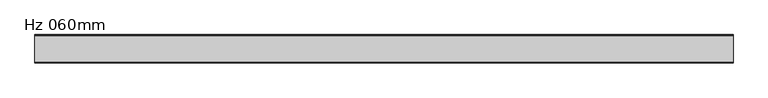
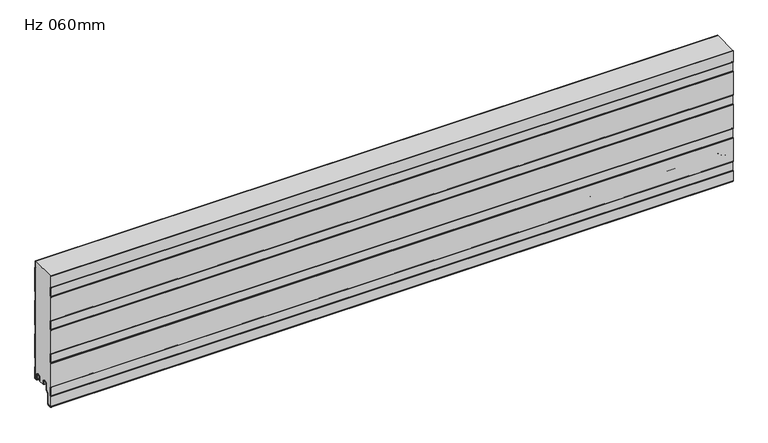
"""IFC4 building model written with IfcOpenShell, lengths in millimetres: plate geometry, KIP-MEX-KSS-1067-R19-CP-Hz-SL_SL : Hz 060mm."""

from ifc_helpers import new_model, si_unit, point, frame, frame_2d, origin, place, context, project, spatial, polyline, circle_curve, trimmed, segment, composite_curve, outline, extrude, source, transform, mapped, element, save
from ifc_brep_helpers import plane_surface, cylinder_surface, revolved_surface, advanced_brep


def hz_060mm_0e53f6a9(model_context):
    return source(origin(), model_context, "Body", "SolidModel", [
        advanced_brep(
        [(-740.0, -17.0015159, 2.0313088), (-740.0, -18.0015191, 1.0313116), (-740.0, -19.0015105, 2.0313088), (-740.0, -19.0015105, 6.0315125), (-740.0, -18.0015159, 6.0315125), (-740.0, -18.0015159, 8.7237223), (-740.0, -14.7015202, 12.023718), (-740.0, -10.301529, 12.023718), (-740.0, -7.0015335, 8.7237225), (-740.0, -7.0015335, -1.6962564), (-740.0, -5.2315393, -3.4662506), (-740.0, -0.9999916, -3.4662506), (-740.0, -0.9999916, 21.034026), (-740.0, -2.2002307, 22.4196686), (-740.0, -2.2002307, 41.7948349), (-740.0, -1.0, 43.1804679), (-740.0, -1.0, 97.2338833), (-740.0, -2.2002307, 98.6195162), (-740.0, -2.2002307, 117.9946825), (-740.0, -1.0, 119.3803155), (-740.0, -1.0, 173.4337309), (-740.0, -2.2002307, 174.8193638), (-740.0, -2.2002307, 194.1945301), (-740.0, -1.0, 195.5801631), (-740.0, -1.0, 249.6335785), (-740.0, -2.2002307, 251.0192114), (-740.0, -2.2002307, 266.0), (-740.0, -1.2002307, 266.0), (-740.0, -1.2002307, 251.3920919), (-740.0, -0.3417885, 250.4010442), (-740.0, 0.0, 249.4844273), (-740.0, 0.0, 195.7293142), (-740.0, -0.3417885, 194.8126973), (-740.0, -1.2002307, 193.8216497), (-740.0, -1.2002307, 175.1922443), (-740.0, -0.3417885, 174.2011966), (-740.0, 0.0, 173.2845797), (-740.0, 0.0, 119.5294666), (-740.0, -0.3417885, 118.6128497), (-740.0, -1.2002307, 117.6218021), (-740.0, -1.2002307, 98.9923967), (-740.0, -0.3417885, 98.001349), (-740.0, 0.0, 97.0847321), (-740.0, 0.0, 43.329619), (-740.0, -0.3417885, 42.4130021), (-740.0, -1.2002307, 41.4219545), (-740.0, -1.2002307, 22.7925491), (-740.0, -0.3417885, 21.8015014), (-740.0, 0.0, 20.8847931), (-740.0, 8.4e-06, -3.0662545), (-740.0, -1.3999878, -4.4662506), (-740.0, -5.2315393, -4.4662506), (-740.0, -8.0015335, -1.6962564), (-740.0, -8.0015335, 8.7237225), (-740.0, -10.301529, 11.023718), (-740.0, -14.7015202, 11.023718), (-740.0, -17.0015159, 8.7237223), (740.0, -17.0015159, 2.0313088), (740.0, -17.0015159, 8.7237223), (740.0, -14.7015202, 11.023718), (740.0, -10.301529, 11.023718), (740.0, -8.0015335, 8.7237225), (740.0, -8.0015335, -1.6962564), (740.0, -5.2315393, -4.4662506), (740.0, -1.3999878, -4.4662506), (740.0, 8.4e-06, -3.0662545), (740.0, 8.4e-06, 20.8848845), (740.0, -0.3417885, 21.8015014), (740.0, -1.2002307, 22.7925491), (740.0, -1.2002307, 41.4219545), (740.0, -0.3417885, 42.4130021), (740.0, 0.0, 43.329619), (740.0, 0.0, 97.0847321), (740.0, -0.3417885, 98.001349), (740.0, -1.2002307, 98.9923967), (740.0, -1.2002307, 117.6218021), (740.0, -0.3417885, 118.6128497), (740.0, 0.0, 119.5294666), (740.0, 0.0, 173.2845797), (740.0, -0.3417885, 174.2011966), (740.0, -1.2002307, 175.1922443), (740.0, -1.2002307, 193.8216497), (740.0, -0.3417885, 194.8126973), (740.0, 0.0, 195.7293142), (740.0, 0.0, 249.4844273), (740.0, -0.3417885, 250.4010442), (740.0, -1.2002307, 251.3920919), (740.0, -1.2002307, 266.0), (740.0, -2.2002307, 266.0), (740.0, -2.2002307, 251.0192114), (740.0, -1.0, 249.6335785), (740.0, -1.0, 195.5801631), (740.0, -2.2002307, 194.1945301), (740.0, -2.2002307, 174.8193638), (740.0, -1.0, 173.4337309), (740.0, -1.0, 119.3803155), (740.0, -2.2002307, 117.9946825), (740.0, -2.2002307, 98.6195162), (740.0, -1.0, 97.2338833), (740.0, -1.0, 43.1804679), (740.0, -2.2002307, 41.7948349), (740.0, -2.2002307, 22.4196686), (740.0, -0.9999916, 21.034026), (740.0, -0.9999916, -3.4662506), (740.0, -5.2315393, -3.4662506), (740.0, -7.0015335, -1.6962564), (740.0, -7.0015335, 8.7237225), (740.0, -10.301529, 12.023718), (740.0, -14.7015202, 12.023718), (740.0, -18.0015159, 8.7237223), (740.0, -18.0015159, 6.0315125), (740.0, -19.0015105, 6.0315125), (740.0, -19.0015105, 2.0313088), (740.0, -18.0015192, 1.0313116)],
        [
            (0, 1, circle_curve(frame((-740.0, -18.0015132, 2.0313088), z_axis=(-1.0, 0.0, 0.0), x_axis=(0.0, 0.0, 1.0)), 0.9999973)),
            (1, 2, circle_curve(frame((-740.0, -18.0015133, 2.0313088), z_axis=(-1.0, 0.0, 0.0), x_axis=(0.0, 0.0, 1.0)), 0.9999972)),
            (2, 3),
            (3, 4),
            (4, 5),
            (5, 6, circle_curve(frame((-740.0, -14.7015202, 8.7237223), z_axis=(-1.0, 0.0, 0.0), x_axis=(0.0, 0.0, 1.0)), 3.2999957)),
            (6, 7),
            (7, 8, circle_curve(frame((-740.0, -10.301529, 8.7237225), z_axis=(-1.0, 0.0, 0.0), x_axis=(0.0, 0.0, 1.0)), 3.2999955)),
            (8, 9),
            (9, 10, circle_curve(frame((-740.0, -5.2315393, -1.6962564), z_axis=(1.0, 0.0, 0.0), x_axis=(0.0, 0.0, 1.0)), 1.7699942)),
            (10, 11),
            (11, 12),
            (12, 13),
            (13, 14),
            (14, 15),
            (15, 16),
            (16, 17),
            (17, 18),
            (18, 19),
            (19, 20),
            (20, 21),
            (21, 22),
            (22, 23),
            (23, 24),
            (24, 25),
            (25, 26),
            (26, 27),
            (27, 28),
            (28, 29),
            (29, 30, circle_curve(frame((-740.0, -1.3999972, 249.4844273), z_axis=(-1.0, 0.0, 0.0), x_axis=(0.0, 0.0, 1.0)), 1.3999972)),
            (30, 31),
            (31, 32, circle_curve(frame((-740.0, -1.3999972, 195.7293142), z_axis=(-1.0, 0.0, 0.0), x_axis=(0.0, 0.0, 1.0)), 1.3999972)),
            (32, 33),
            (33, 34),
            (34, 35),
            (35, 36, circle_curve(frame((-740.0, -1.3999972, 173.2845797), z_axis=(-1.0, 0.0, 0.0), x_axis=(0.0, 0.0, 1.0)), 1.3999972)),
            (36, 37),
            (37, 38, circle_curve(frame((-740.0, -1.3999972, 119.5294666), z_axis=(-1.0, 0.0, 0.0), x_axis=(0.0, 0.0, 1.0)), 1.3999972)),
            (38, 39),
            (39, 40),
            (40, 41),
            (41, 42, circle_curve(frame((-740.0, -1.3999972, 97.0847321), z_axis=(-1.0, 0.0, 0.0), x_axis=(0.0, 0.0, 1.0)), 1.3999972)),
            (42, 43),
            (43, 44, circle_curve(frame((-740.0, -1.3999972, 43.329619), z_axis=(-1.0, 0.0, 0.0), x_axis=(0.0, 0.0, 1.0)), 1.3999972)),
            (44, 45),
            (45, 46),
            (46, 47),
            (47, 48, circle_curve(frame((-740.0, -1.3999972, 20.8848845), z_axis=(-1.0, 0.0, 0.0), x_axis=(0.0, 0.0, 1.0)), 1.3999972)),
            (48, 49),
            (49, 50, circle_curve(frame((-740.0, -1.3999878, -3.0662545), z_axis=(-1.0, 0.0, 0.0), x_axis=(0.0, 0.0, 1.0)), 1.3999962)),
            (50, 51),
            (51, 52, circle_curve(frame((-740.0, -5.2315393, -1.6962564), z_axis=(-1.0, 0.0, 0.0), x_axis=(0.0, 0.0, 1.0)), 2.7699942)),
            (52, 53),
            (53, 54, circle_curve(frame((-740.0, -10.301529, 8.7237225), z_axis=(1.0, 0.0, 0.0), x_axis=(0.0, 0.0, 1.0)), 2.2999955)),
            (54, 55),
            (55, 56, circle_curve(frame((-740.0, -14.7015202, 8.7237223), z_axis=(1.0, 0.0, 0.0), x_axis=(0.0, 0.0, 1.0)), 2.2999957)),
            (56, 0),
            (57, 58),
            (58, 59, circle_curve(frame((740.0, -14.7015202, 8.7237223), z_axis=(-1.0, 0.0, 0.0), x_axis=(0.0, 0.0, 1.0)), 2.2999957)),
            (59, 60),
            (60, 61, circle_curve(frame((740.0, -10.301529, 8.7237225), z_axis=(-1.0, 0.0, 0.0), x_axis=(0.0, 0.0, 1.0)), 2.2999955)),
            (61, 62),
            (62, 63, circle_curve(frame((740.0, -5.2315393, -1.6962564), z_axis=(1.0, 0.0, 0.0), x_axis=(0.0, 0.0, 1.0)), 2.7699942)),
            (63, 64),
            (64, 65, circle_curve(frame((740.0, -1.3999878, -3.0662545), z_axis=(1.0, 0.0, 0.0), x_axis=(0.0, 0.0, 1.0)), 1.3999962)),
            (65, 66),
            (66, 67, circle_curve(frame((740.0, -1.3999972, 20.8848845), z_axis=(1.0, 0.0, 0.0), x_axis=(0.0, 0.0, 1.0)), 1.3999972)),
            (67, 68),
            (68, 69),
            (69, 70),
            (70, 71, circle_curve(frame((740.0, -1.3999972, 43.329619), z_axis=(1.0, 0.0, 0.0), x_axis=(0.0, 0.0, 1.0)), 1.3999972)),
            (71, 72),
            (72, 73, circle_curve(frame((740.0, -1.3999972, 97.0847321), z_axis=(1.0, 0.0, 0.0), x_axis=(0.0, 0.0, 1.0)), 1.3999972)),
            (73, 74),
            (74, 75),
            (75, 76),
            (76, 77, circle_curve(frame((740.0, -1.3999972, 119.5294666), z_axis=(1.0, 0.0, 0.0), x_axis=(0.0, 0.0, 1.0)), 1.3999972)),
            (77, 78),
            (78, 79, circle_curve(frame((740.0, -1.3999972, 173.2845797), z_axis=(1.0, 0.0, 0.0), x_axis=(0.0, 0.0, 1.0)), 1.3999972)),
            (79, 80),
            (80, 81),
            (81, 82),
            (82, 83, circle_curve(frame((740.0, -1.3999972, 195.7293142), z_axis=(1.0, 0.0, 0.0), x_axis=(0.0, 0.0, 1.0)), 1.3999972)),
            (83, 84),
            (84, 85, circle_curve(frame((740.0, -1.3999972, 249.4844273), z_axis=(1.0, 0.0, 0.0), x_axis=(0.0, 0.0, 1.0)), 1.3999972)),
            (85, 86),
            (86, 87),
            (87, 88),
            (88, 89),
            (89, 90),
            (90, 91),
            (91, 92),
            (92, 93),
            (93, 94),
            (94, 95),
            (95, 96),
            (96, 97),
            (97, 98),
            (98, 99),
            (99, 100),
            (100, 101),
            (101, 102),
            (102, 103),
            (103, 104),
            (104, 105, circle_curve(frame((740.0, -5.2315393, -1.6962564), z_axis=(-1.0, 0.0, 0.0), x_axis=(0.0, 0.0, 1.0)), 1.7699942)),
            (105, 106),
            (106, 107, circle_curve(frame((740.0, -10.301529, 8.7237225), z_axis=(1.0, 0.0, 0.0), x_axis=(0.0, 0.0, 1.0)), 3.2999955)),
            (107, 108),
            (108, 109, circle_curve(frame((740.0, -14.7015202, 8.7237223), z_axis=(1.0, 0.0, 0.0), x_axis=(0.0, 0.0, 1.0)), 3.2999957)),
            (109, 110),
            (110, 111),
            (111, 112),
            (112, 113, circle_curve(frame((740.0, -18.0015133, 2.0313088), z_axis=(1.0, 0.0, 0.0), x_axis=(0.0, 0.0, 1.0)), 0.9999972)),
            (113, 57, circle_curve(frame((740.0, -18.0015132, 2.0313088), z_axis=(1.0, 0.0, 0.0), x_axis=(0.0, 0.0, 1.0)), 0.9999973)),
            (56, 58),
            (57, 0),
            (55, 59),
            (54, 60),
            (53, 61),
            (52, 62),
            (51, 63),
            (50, 64),
            (49, 65),
            (48, 66),
            (47, 67),
            (46, 68),
            (45, 69),
            (44, 70),
            (43, 71),
            (42, 72),
            (41, 73),
            (40, 74),
            (39, 75),
            (38, 76),
            (37, 77),
            (36, 78),
            (35, 79),
            (34, 80),
            (33, 81),
            (32, 82),
            (31, 83),
            (30, 84),
            (29, 85),
            (28, 86),
            (27, 87),
            (88, 26),
            (25, 89),
            (24, 90),
            (23, 91),
            (22, 92),
            (21, 93),
            (20, 94),
            (19, 95),
            (18, 96),
            (17, 97),
            (16, 98),
            (15, 99),
            (14, 100),
            (13, 101),
            (12, 102),
            (11, 103),
            (10, 104),
            (9, 105),
            (8, 106),
            (7, 107),
            (6, 108),
            (5, 109),
            (4, 110),
            (3, 111),
            (2, 112),
            (1, 113),
        ],
        [
            plane_surface(frame((-740.0, 0.0, 533.4), z_axis=(-1.0, 0.0, 0.0), x_axis=(0.0, 1.0, 0.0))),
            plane_surface(frame((740.0, 0.0, 533.4), z_axis=(1.0, 0.0, 0.0), x_axis=(0.0, 1.0, 0.0))),
            plane_surface(frame((-740.0, -17.0015159, 2.0313088), z_axis=(0.0, 1.0, 0.0), x_axis=(1.0, 0.0, 0.0))),
            revolved_surface(polyline([(740.0, -14.7015202, 11.023718), (-740.0, -14.7015202, 11.023718)]), (-740.0, -14.7015202, 8.7237223), (1.0, 0.0, 0.0)),
            plane_surface(frame((-740.0, -14.7015202, 11.023718), z_axis=(0.0, 0.0, -1.0), x_axis=(1.0, 0.0, 0.0))),
            revolved_surface(polyline([(740.0, -10.301529, 11.023717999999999), (-740.0, -10.301529, 11.023717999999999)]), (-740.0, -10.301529, 8.7237225), (1.0, 0.0, 0.0)),
            plane_surface(frame((-740.0, -8.0015335, 8.7237225), z_axis=(0.0, -1.0, 0.0), x_axis=(1.0, 0.0, 0.0))),
            cylinder_surface(frame((-740.0, -5.2315393, -1.6962564), z_axis=(-1.0, 0.0, 0.0), x_axis=(0.0, 0.0, 1.0)), 2.7699942),
            plane_surface(frame((-740.0, -5.2315393, -4.4662506), z_axis=(0.0, 0.0, -1.0), x_axis=(1.0, 0.0, 0.0))),
            cylinder_surface(frame((-740.0, -1.3999878, -3.0662545), z_axis=(-1.0, 0.0, 0.0), x_axis=(0.0, 0.0, 1.0)), 1.3999962),
            plane_surface(frame((-740.0, 8.4e-06, -3.0662545), z_axis=(0.0, 1.0, 0.0), x_axis=(1.0, 0.0, 0.0))),
            cylinder_surface(frame((-740.0, -1.3999972, 20.8848845), z_axis=(-1.0, 0.0, 0.0), x_axis=(0.0, 0.0, 1.0)), 1.3999972),
            plane_surface(frame((-740.0, -0.3417885, 21.8015014), z_axis=(0.0, 0.755864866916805, 0.6547276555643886), x_axis=(1.0, 0.0, 0.0))),
            plane_surface(frame((-740.0, -1.2002307, 32.1072518), z_axis=(0.0, 1.0, 0.0), x_axis=(1.0, 0.0, 0.0))),
            plane_surface(frame((-740.0, -1.2002307, 41.4219545), z_axis=(0.0, 0.755864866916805, -0.6547276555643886), x_axis=(1.0, 0.0, 0.0))),
            cylinder_surface(frame((-740.0, -1.3999972, 43.329619), z_axis=(-1.0, 0.0, 0.0), x_axis=(0.0, 0.0, 1.0)), 1.3999972),
            plane_surface(frame((-740.0, 0.0, 43.329619), z_axis=(0.0, 1.0, 0.0), x_axis=(1.0, 0.0, 0.0))),
            cylinder_surface(frame((-740.0, -1.3999972, 97.0847321), z_axis=(-1.0, 0.0, 0.0), x_axis=(0.0, 0.0, 1.0)), 1.3999972),
            plane_surface(frame((-740.0, -0.3417885, 98.001349), z_axis=(0.0, 0.755864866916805, 0.6547276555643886), x_axis=(1.0, 0.0, 0.0))),
            plane_surface(frame((-740.0, -1.2002307, 108.3070994), z_axis=(0.0, 1.0, 0.0), x_axis=(1.0, 0.0, 0.0))),
            plane_surface(frame((-740.0, -1.2002307, 117.6218021), z_axis=(0.0, 0.755864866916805, -0.6547276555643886), x_axis=(1.0, 0.0, 0.0))),
            cylinder_surface(frame((-740.0, -1.3999972, 119.5294666), z_axis=(-1.0, 0.0, 0.0), x_axis=(0.0, 0.0, 1.0)), 1.3999972),
            plane_surface(frame((-740.0, 0.0, 119.5294666), z_axis=(0.0, 1.0, 0.0), x_axis=(1.0, 0.0, 0.0))),
            cylinder_surface(frame((-740.0, -1.3999972, 173.2845797), z_axis=(-1.0, 0.0, 0.0), x_axis=(0.0, 0.0, 1.0)), 1.3999972),
            plane_surface(frame((-740.0, -0.3417885, 174.2011966), z_axis=(0.0, 0.755864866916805, 0.6547276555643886), x_axis=(1.0, 0.0, 0.0))),
            plane_surface(frame((-740.0, -1.2002307, 184.506947), z_axis=(0.0, 1.0, 0.0), x_axis=(1.0, 0.0, 0.0))),
            plane_surface(frame((-740.0, -1.2002307, 193.8216497), z_axis=(0.0, 0.755864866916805, -0.6547276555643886), x_axis=(1.0, 0.0, 0.0))),
            cylinder_surface(frame((-740.0, -1.3999972, 195.7293142), z_axis=(-1.0, 0.0, 0.0), x_axis=(0.0, 0.0, 1.0)), 1.3999972),
            plane_surface(frame((-740.0, 0.0, 195.7293142), z_axis=(0.0, 1.0, 0.0), x_axis=(1.0, 0.0, 0.0))),
            cylinder_surface(frame((-740.0, -1.3999972, 249.4844273), z_axis=(-1.0, 0.0, 0.0), x_axis=(0.0, 0.0, 1.0)), 1.3999972),
            plane_surface(frame((-740.0, -0.3417885, 250.4010442), z_axis=(0.0, 0.755864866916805, 0.6547276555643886), x_axis=(1.0, 0.0, 0.0))),
            plane_surface(frame((-740.0, -1.2002307, 260.7067946), z_axis=(0.0, 1.0, 0.0), x_axis=(1.0, 0.0, 0.0))),
            plane_surface(frame((-740.0, -2.2002307, 270.3943777), z_axis=(0.0, -1.0, 0.0), x_axis=(1.0, 0.0, 0.0))),
            plane_surface(frame((-740.0, -2.2002307, 251.0192114), z_axis=(0.0, -0.755864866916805, -0.6547276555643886), x_axis=(1.0, 0.0, 0.0))),
            plane_surface(frame((-740.0, -1.0, 249.6335785), z_axis=(0.0, -1.0, 0.0), x_axis=(1.0, 0.0, 0.0))),
            plane_surface(frame((-740.0, -1.0, 195.5801631), z_axis=(0.0, -0.755864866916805, 0.6547276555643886), x_axis=(1.0, 0.0, 0.0))),
            plane_surface(frame((-740.0, -2.2002307, 194.1945301), z_axis=(0.0, -1.0, 0.0), x_axis=(1.0, 0.0, 0.0))),
            plane_surface(frame((-740.0, -2.2002307, 174.8193638), z_axis=(0.0, -0.755864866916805, -0.6547276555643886), x_axis=(1.0, 0.0, 0.0))),
            plane_surface(frame((-740.0, -1.0, 173.4337309), z_axis=(0.0, -1.0, 0.0), x_axis=(1.0, 0.0, 0.0))),
            plane_surface(frame((-740.0, -1.0, 119.3803155), z_axis=(0.0, -0.755864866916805, 0.6547276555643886), x_axis=(1.0, 0.0, 0.0))),
            plane_surface(frame((-740.0, -2.2002307, 117.9946825), z_axis=(0.0, -1.0, 0.0), x_axis=(1.0, 0.0, 0.0))),
            plane_surface(frame((-740.0, -2.2002307, 98.6195162), z_axis=(0.0, -0.755864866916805, -0.6547276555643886), x_axis=(1.0, 0.0, 0.0))),
            plane_surface(frame((-740.0, -1.0, 97.2338833), z_axis=(0.0, -1.0, 0.0), x_axis=(1.0, 0.0, 0.0))),
            plane_surface(frame((-740.0, -1.0, 43.1804679), z_axis=(0.0, -0.755864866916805, 0.6547276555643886), x_axis=(1.0, 0.0, 0.0))),
            plane_surface(frame((-740.0, -2.2002307, 41.7948349), z_axis=(0.0, -1.0, 0.0), x_axis=(1.0, 0.0, 0.0))),
            plane_surface(frame((-740.0, -2.2002307, 22.4196686), z_axis=(0.0, -0.755864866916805, -0.6547276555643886), x_axis=(1.0, 0.0, 0.0))),
            plane_surface(frame((-740.0, -0.9999916, 21.034026), z_axis=(0.0, -1.0, 0.0), x_axis=(1.0, 0.0, 0.0))),
            plane_surface(frame((-740.0, -0.9999916, -3.4662506), z_axis=(0.0, 0.0, 1.0), x_axis=(1.0, 0.0, 0.0))),
            revolved_surface(polyline([(740.0, -5.2315393, 0.07373779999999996), (-740.0, -5.2315393, 0.07373779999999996)]), (-740.0, -5.2315393, -1.6962564), (1.0, 0.0, 0.0)),
            plane_surface(frame((-740.0, -7.0015335, -1.6962564), z_axis=(0.0, 1.0, 0.0), x_axis=(1.0, 0.0, 0.0))),
            cylinder_surface(frame((-740.0, -10.301529, 8.7237225), z_axis=(-1.0, 0.0, 0.0), x_axis=(0.0, 0.0, 1.0)), 3.2999955),
            plane_surface(frame((-740.0, -10.301529, 12.023718), z_axis=(0.0, 0.0, 1.0), x_axis=(1.0, 0.0, 0.0))),
            cylinder_surface(frame((-740.0, -14.7015202, 8.7237223), z_axis=(-1.0, 0.0, 0.0), x_axis=(0.0, 0.0, 1.0)), 3.2999957),
            plane_surface(frame((-740.0, -18.0015159, 8.7237223), z_axis=(0.0, -1.0, 0.0), x_axis=(1.0, 0.0, 0.0))),
            plane_surface(frame((-740.0, -18.0015159, 6.0315125), z_axis=(0.0, 0.0, 1.0), x_axis=(1.0, 0.0, 0.0))),
            plane_surface(frame((-740.0, -19.0015105, 6.0315125), z_axis=(0.0, -1.0, 0.0), x_axis=(1.0, 0.0, 0.0))),
            cylinder_surface(frame((-740.0, -18.0015133, 2.0313088), z_axis=(-1.0, 0.0, 0.0), x_axis=(0.0, 0.0, 1.0)), 0.9999972),
            cylinder_surface(frame((-740.0, -18.0015132, 2.0313088), z_axis=(-1.0, 0.0, 0.0), x_axis=(0.0, 0.0, 1.0)), 0.9999973),
            plane_surface(frame((740.0, 10.0, 266.0), z_axis=(0.0, 0.0, 1.0), x_axis=(-1.0, 0.0, 0.0))),
        ],
        [
            (0, [[1, 2, 3, 4, 5, 6, 7, 8, 9, 10, 11, 12, 13, 14, 15, 16, 17, 18, 19, 20, 21, 22, 23, 24, 25, 26, 27, 28, 29, 30, 31, 32, 33, 34, 35, 36, 37, 38, 39, 40, 41, 42, 43, 44, 45, 46, 47, 48, 49, 50, 51, 52, 53, 54, 55, 56, 57]]),
            (1, [[58, 59, 60, 61, 62, 63, 64, 65, 66, 67, 68, 69, 70, 71, 72, 73, 74, 75, 76, 77, 78, 79, 80, 81, 82, 83, 84, 85, 86, 87, 88, 89, 90, 91, 92, 93, 94, 95, 96, 97, 98, 99, 100, 101, 102, 103, 104, 105, 106, 107, 108, 109, 110, 111, 112, 113, 114]]),
            (2, [[115, -58, 116, -57]]),
            (3, [[117, -59, -115, -56]]),
            (4, [[118, -60, -117, -55]]),
            (5, [[119, -61, -118, -54]]),
            (6, [[120, -62, -119, -53]]),
            (7, [[121, -63, -120, -52]]),
            (8, [[122, -64, -121, -51]]),
            (9, [[123, -65, -122, -50]]),
            (10, [[124, -66, -123, -49]]),
            (11, [[125, -67, -124, -48]]),
            (12, [[126, -68, -125, -47]]),
            (13, [[127, -69, -126, -46]]),
            (14, [[128, -70, -127, -45]]),
            (15, [[129, -71, -128, -44]]),
            (16, [[130, -72, -129, -43]]),
            (17, [[131, -73, -130, -42]]),
            (18, [[132, -74, -131, -41]]),
            (19, [[133, -75, -132, -40]]),
            (20, [[134, -76, -133, -39]]),
            (21, [[135, -77, -134, -38]]),
            (22, [[136, -78, -135, -37]]),
            (23, [[137, -79, -136, -36]]),
            (24, [[138, -80, -137, -35]]),
            (25, [[139, -81, -138, -34]]),
            (26, [[140, -82, -139, -33]]),
            (27, [[141, -83, -140, -32]]),
            (28, [[142, -84, -141, -31]]),
            (29, [[143, -85, -142, -30]]),
            (30, [[144, -86, -143, -29]]),
            (31, [[-28, 145, -87, -144]]),
            (32, [[-89, 146, -26, 147]]),
            (33, [[148, -90, -147, -25]]),
            (34, [[149, -91, -148, -24]]),
            (35, [[150, -92, -149, -23]]),
            (36, [[151, -93, -150, -22]]),
            (37, [[152, -94, -151, -21]]),
            (38, [[153, -95, -152, -20]]),
            (39, [[154, -96, -153, -19]]),
            (40, [[155, -97, -154, -18]]),
            (41, [[156, -98, -155, -17]]),
            (42, [[157, -99, -156, -16]]),
            (43, [[158, -100, -157, -15]]),
            (44, [[159, -101, -158, -14]]),
            (45, [[160, -102, -159, -13]]),
            (46, [[161, -103, -160, -12]]),
            (47, [[162, -104, -161, -11]]),
            (48, [[163, -105, -162, -10]]),
            (49, [[164, -106, -163, -9]]),
            (50, [[165, -107, -164, -8]]),
            (51, [[166, -108, -165, -7]]),
            (52, [[167, -109, -166, -6]]),
            (53, [[168, -110, -167, -5]]),
            (54, [[169, -111, -168, -4]]),
            (55, [[170, -112, -169, -3]]),
            (56, [[171, -113, -170, -2]]),
            (57, [[-116, -114, -171, -1]]),
            (58, [[-146, -88, -145, -27]]),
        ],
    ),
        extrude(outline(composite_curve([segment(trimmed(circle_curve(frame_2d((-58.6007733, -10.6415934)), 1.3998661), [point((-60.0006394, -10.6415934))], [point((-59.5333971, -9.5976403))], False, "CARTESIAN"), True, "CONTINUOUS"), segment(polyline([(-59.5333971, -9.5976403), (-58.8006709, -8.8649141), (-58.8006709, 10.0260713), (-59.5336365, 10.7590369)]), True, "CONTINUOUS"), segment(trimmed(circle_curve(frame_2d((-58.6009253, 11.8030877)), 1.3999972), [point((-59.5336365, 10.7590369))], [point((-60.0009016, 11.810741))], False, "CARTESIAN"), True, "CONTINUOUS"), segment(polyline([(-60.0009016, 11.810741), (-60.0009016, 65.5582542)]), True, "CONTINUOUS"), segment(trimmed(circle_curve(frame_2d((-58.6009044, 65.5582542)), 1.3999972), [point((-60.0009016, 65.5582542))], [point((-59.5336156, 66.602305))], False, "CARTESIAN"), True, "CONTINUOUS"), segment(polyline([(-59.5336156, 66.602305), (-58.8006709, 67.3352497), (-58.8006709, 86.2259189), (-59.5336365, 86.9588845)]), True, "CONTINUOUS"), segment(trimmed(circle_curve(frame_2d((-58.6009253, 88.0029353)), 1.3999972), [point((-59.5336365, 86.9588845))], [point((-60.0009016, 88.0105886))], False, "CARTESIAN"), True, "CONTINUOUS"), segment(polyline([(-60.0009016, 88.0105886), (-60.0009016, 141.7581018)]), True, "CONTINUOUS"), segment(trimmed(circle_curve(frame_2d((-58.6009044, 141.7581018)), 1.3999972), [point((-60.0009016, 141.7581018))], [point((-59.5336156, 142.8021526))], False, "CARTESIAN"), True, "CONTINUOUS"), segment(polyline([(-59.5336156, 142.8021526), (-58.8006709, 143.5350973), (-58.8006709, 162.4257665), (-59.5336365, 163.1587321)]), True, "CONTINUOUS"), segment(trimmed(circle_curve(frame_2d((-58.6009253, 164.2027829)), 1.3999972), [point((-59.5336365, 163.1587321))], [point((-60.0009016, 164.2104362))], False, "CARTESIAN"), True, "CONTINUOUS"), segment(polyline([(-60.0009016, 164.2104362), (-60.0009016, 217.9579494)]), True, "CONTINUOUS"), segment(trimmed(circle_curve(frame_2d((-58.6009044, 217.9579494)), 1.3999972), [point((-60.0009016, 217.9579494))], [point((-59.5336156, 219.0020002))], False, "CARTESIAN"), True, "CONTINUOUS"), segment(polyline([(-59.5336156, 219.0020002), (-58.8006709, 219.7349449), (-58.8006709, 238.6256141), (-59.5336365, 239.3585797)]), True, "CONTINUOUS"), segment(trimmed(circle_curve(frame_2d((-58.6009253, 240.4026305)), 1.3999972), [point((-59.5336365, 239.3585797))], [point((-60.0009016, 240.4102838))], False, "CARTESIAN"), True, "CONTINUOUS"), segment(polyline([(-60.0009016, 240.4102838), (-60.0009016, 266.0), (-59.0009016, 266.0), (-59.0009016, 240.2405326), (-57.8006709, 239.0403019), (-57.8006709, 219.3208894), (-59.0009016, 218.1206587), (-59.0009016, 164.0405269), (-57.8006709, 162.8402962), (-57.8006709, 143.1208837), (-59.0009016, 141.920653), (-59.0009016, 87.8405213), (-57.8006709, 86.6402905), (-57.8006709, 66.920878), (-59.0009016, 65.7206473), (-59.0009016, 11.6405156), (-57.8006709, 10.4402849), (-57.8006709, -9.2791277), (-59.0006394, -10.4790962), (-59.0006394, -32.4521176)]), True, "CONTINUOUS"), segment(trimmed(circle_curve(frame_2d((-56.4304001, -32.4521176)), 2.5702393), [point((-59.0006394, -32.4521176))], [point((-56.2063145, -35.0125699))], True, "CARTESIAN"), True, "CONTINUOUS"), segment(polyline([(-56.2063145, -35.0125699), (-51.2244936, -34.5765709)]), True, "CONTINUOUS"), segment(trimmed(circle_curve(frame_2d((-51.7058842, -31.9198392)), 2.6999926), [point((-51.2244936, -34.5765709))], [point((-49.0058916, -31.9198392))], True, "CARTESIAN"), True, "CONTINUOUS"), segment(polyline([(-49.0058916, -31.9198392), (-49.0058916, -9.8247096), (-43.5038205, -4.3226385)]), True, "CONTINUOUS"), segment(trimmed(circle_curve(frame_2d((-44.7058982, -3.1205608)), 1.6999946), [point((-43.5038205, -4.3226385))], [point((-43.0059036, -3.1205608))], True, "CARTESIAN"), True, "CONTINUOUS"), segment(polyline([(-43.0059036, -3.1205608), (-43.0059036, 8.6903283)]), True, "CONTINUOUS"), segment(trimmed(circle_curve(frame_2d((-39.6559083, 8.6903283)), 3.3499953), [point((-43.0059036, 8.6903283))], [point((-39.6559083, 12.0403236))], False, "CARTESIAN"), True, "CONTINUOUS"), segment(polyline([(-39.6559083, 12.0403236), (-35.2559171, 12.0403236)]), True, "CONTINUOUS"), segment(trimmed(circle_curve(frame_2d((-35.2559171, 8.6903283)), 3.3499953), [point((-35.2559171, 12.0403236))], [point((-31.9059218, 8.6903283))], False, "CARTESIAN"), True, "CONTINUOUS"), segment(polyline([(-31.9059218, 8.6903283), (-31.9059218, 5.9912173), (-30.5074429, 5.9912173), (-30.5074429, 2.2328239)]), True, "CONTINUOUS"), segment(trimmed(circle_curve(frame_2d((-31.7074396, 2.2313092)), 1.1999976), [point((-30.5074429, 2.2328239))], [point((-31.6769177, 1.0316999))], False, "CARTESIAN"), True, "CONTINUOUS"), segment(trimmed(circle_curve(frame_2d((-31.7074396, 2.2313092)), 1.1999976), [point((-31.6769177, 1.0316999))], [point((-32.9059218, 2.1710221))], False, "CARTESIAN"), True, "CONTINUOUS"), segment(polyline([(-32.9059218, 2.1710221), (-32.9059218, 8.6903283)]), True, "CONTINUOUS"), segment(trimmed(circle_curve(frame_2d((-35.2559171, 8.6903283)), 2.3499953), [point((-32.9059218, 8.6903283))], [point((-35.2559171, 11.0403236))], True, "CARTESIAN"), True, "CONTINUOUS"), segment(polyline([(-35.2559171, 11.0403236), (-39.6559083, 11.0403236)]), True, "CONTINUOUS"), segment(trimmed(circle_curve(frame_2d((-39.6559083, 8.6903283)), 2.3499953), [point((-39.6559083, 11.0403236))], [point((-42.0059036, 8.6903283))], True, "CARTESIAN"), True, "CONTINUOUS"), segment(polyline([(-42.0059036, 8.6903283), (-42.0059036, -3.1205608)]), True, "CONTINUOUS"), segment(trimmed(circle_curve(frame_2d((-44.7058982, -3.1205608)), 2.6999946), [point((-42.0059036, -3.1205608))], [point((-42.7967137, -5.0297453))], False, "CARTESIAN"), True, "CONTINUOUS"), segment(polyline([(-42.7967137, -5.0297453), (-47.6251312, -9.8581627)]), True, "CONTINUOUS"), segment(trimmed(circle_curve(frame_2d((-46.7058942, -10.7773997)), 1.2999974), [point((-47.6251312, -9.8581627))], [point((-48.0058916, -10.7773997))], True, "CARTESIAN"), True, "CONTINUOUS"), segment(polyline([(-48.0058916, -10.7773997), (-48.0058916, -31.9198392)]), True, "CONTINUOUS"), segment(trimmed(circle_curve(frame_2d((-51.7058842, -31.9198392)), 3.6999926), [point((-48.0058916, -31.9198392))], [point((-51.0950831, -35.5690675))], False, "CARTESIAN"), True, "CONTINUOUS"), segment(polyline([(-51.0950831, -35.5690675), (-56.1191297, -36.008762)]), True, "CONTINUOUS"), segment(trimmed(circle_curve(frame_2d((-56.4304001, -32.4521176)), 3.5702393), [point((-56.1191297, -36.008762))], [point((-60.0006394, -32.4521176))], False, "CARTESIAN"), True, "CONTINUOUS"), segment(polyline([(-60.0006394, -32.4521176), (-60.0006394, -10.6415934)]), True, "CONTINUOUS")], self_intersect=False)), frame((-740.0, 0.0, 0.0), z_axis=(1.0, 0.0, 0.0), x_axis=(0.0, 1.0, 0.0)), (0.0, 0.0, 1.0), 1480.0),
        extrude(outline(composite_curve([segment(trimmed(circle_curve(frame_2d((-31.7013969, 2.2313092)), 1.1999976), [point((-31.670875, 1.0316999))], [point((-30.5014003, 2.2328239))], True, "CARTESIAN"), True, "CONTINUOUS"), segment(polyline([(-30.5014003, 2.2328239), (-30.5014003, 5.9912173), (-31.8998791, 5.9912173), (-31.8998791, 8.6903283)]), True, "CONTINUOUS"), segment(trimmed(circle_curve(frame_2d((-35.2498744, 8.6903283)), 3.3499953), [point((-31.8998791, 8.6903283))], [point((-35.2498744, 12.0403236))], True, "CARTESIAN"), True, "CONTINUOUS"), segment(polyline([(-35.2498744, 12.0403236), (-39.6498656, 12.0403236)]), True, "CONTINUOUS"), segment(trimmed(circle_curve(frame_2d((-39.6498656, 8.6903283)), 3.3499953), [point((-39.6498656, 12.0403236))], [point((-42.9998609, 8.6903283))], True, "CARTESIAN"), True, "CONTINUOUS"), segment(polyline([(-42.9998609, 8.6903283), (-42.9998609, -3.1205608)]), True, "CONTINUOUS"), segment(trimmed(circle_curve(frame_2d((-44.6998555, -3.1205608)), 1.6999946), [point((-42.9998609, -3.1205608))], [point((-43.4977778, -4.3226385))], False, "CARTESIAN"), True, "CONTINUOUS"), segment(polyline([(-43.4977778, -4.3226385), (-48.9998489, -9.8247096), (-48.9998489, -31.9198392)]), True, "CONTINUOUS"), segment(trimmed(circle_curve(frame_2d((-51.6998415, -31.9198392)), 2.6999926), [point((-48.9998489, -31.9198392))], [point((-51.2184509, -34.5765709))], False, "CARTESIAN"), True, "CONTINUOUS"), segment(polyline([(-51.2184509, -34.5765709), (-56.2002718, -35.0125699)]), True, "CONTINUOUS"), segment(trimmed(circle_curve(frame_2d((-56.4243575, -32.4521176)), 2.5702393), [point((-56.2002718, -35.0125699))], [point((-58.9945967, -32.4521176))], False, "CARTESIAN"), True, "CONTINUOUS"), segment(polyline([(-58.9945967, -32.4521176), (-58.9945967, -10.4790962), (-57.7946282, -9.2791277), (-57.7946282, 10.4402849), (-58.9948589, 11.6405156), (-58.9948589, 65.7206473), (-57.7946282, 66.920878), (-57.7946282, 86.6402905), (-58.9948589, 87.8405213), (-58.9948589, 141.920653), (-57.7946282, 143.1208837), (-57.7946282, 162.8402962), (-58.9948589, 164.0405269), (-58.9948589, 218.1206587), (-57.7946282, 219.3208894), (-57.7946282, 239.0403019), (-58.9948589, 240.2405326), (-58.9948589, 266.0), (-2.2002307, 266.0), (-2.2002307, 251.0192115), (-1.0, 249.6335785), (-1.0, 195.5801631), (-2.2002307, 194.1945302), (-2.2002307, 174.8193639), (-1.0, 173.4337309), (-1.0, 119.3803155), (-2.2002307, 117.9946826), (-2.2002307, 98.6195163), (-1.0, 97.2338833), (-1.0, 43.1804679), (-2.2002307, 41.794835), (-2.2002307, 22.4196687), (-0.9999916, 21.034026), (-0.9999916, -3.4662506), (-5.2315389, -3.4662506)]), True, "CONTINUOUS"), segment(trimmed(circle_curve(frame_2d((-5.2315389, -1.6962564)), 1.7699942), [point((-5.2315389, -3.4662506))], [point((-7.0015331, -1.6962564))], False, "CARTESIAN"), True, "CONTINUOUS"), segment(polyline([(-7.0015331, -1.6962564), (-7.0015331, 8.7237222)]), True, "CONTINUOUS"), segment(trimmed(circle_curve(frame_2d((-10.301529, 8.7237222)), 3.2999959), [point((-7.0015331, 8.7237222))], [point((-10.301529, 12.023718))], True, "CARTESIAN"), True, "CONTINUOUS"), segment(polyline([(-10.301529, 12.023718), (-14.7015202, 12.023718)]), True, "CONTINUOUS"), segment(trimmed(circle_curve(frame_2d((-14.7015202, 8.7237223)), 3.2999957), [point((-14.7015202, 12.023718))], [point((-18.0015159, 8.7237223))], True, "CARTESIAN"), True, "CONTINUOUS"), segment(polyline([(-18.0015159, 8.7237223), (-18.0015159, 6.0315125), (-19.0015105, 6.0315125), (-19.0015105, 2.0313089)]), True, "CONTINUOUS"), segment(trimmed(circle_curve(frame_2d((-18.0015133, 2.0313089)), 0.9999972), [point((-19.0015105, 2.0313089))], [point((-18.0015192, 1.0313117))], True, "CARTESIAN"), True, "CONTINUOUS"), segment(polyline([(-18.0015192, 1.0313117), (-19.0328308, 0.0), (-30.6391751, 0.0), (-31.670875, 1.0316999)]), True, "CONTINUOUS")], self_intersect=False)), frame((-740.0, 0.0, 0.0), z_axis=(1.0, 0.0, 0.0), x_axis=(0.0, 1.0, 0.0)), (0.0, 0.0, 1.0), 1480.0),
    ])


if __name__ == "__main__":
    model = new_model("IFC4")
    model_context = context("Model", 3, world=origin())
    ifc_project = project(units=[si_unit("LENGTHUNIT", "METRE", prefix="MILLI")], contexts=[model_context])
    site = spatial("IfcSite", under=ifc_project)
    building = spatial("IfcBuilding", under=site)
    placement = place(None, origin())
    hz_060mm_shape = hz_060mm_0e53f6a9(model_context)
    element("IfcPlate", 1, ObjectType="KIP-MEX-KSS-1067-R19-CP-Hz-SL_SL : Hz 060mm", at=placement, inside=building, context=model_context, shape_type="MappedRepresentation", body=[
        mapped(hz_060mm_shape, transform((0.0, 0.0, 0.0), x_axis=(1.0, 0.0, 0.0), y_axis=(0.0, 1.0, 0.0), z_axis=(0.0, 0.0, 1.0))),
    ])
    save(model, "model.ifc")
